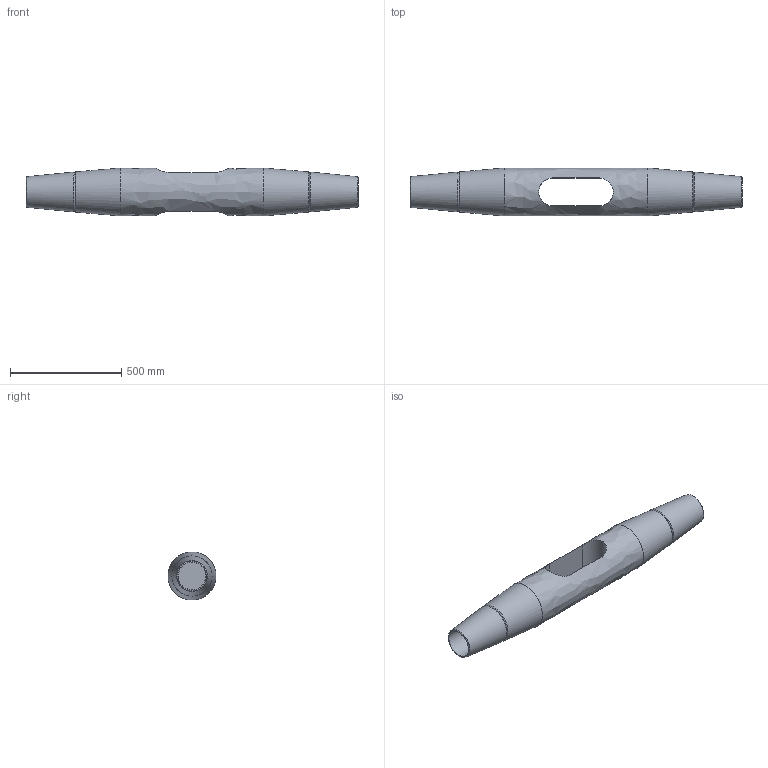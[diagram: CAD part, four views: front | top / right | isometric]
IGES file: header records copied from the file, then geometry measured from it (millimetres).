
Global section: file name: 520-120-KMF; native system: Autodesk Inventor 2016; preprocessor: unknown; author: Administrator; date: 20200702.133031; units: centimetre
Bounding box: 1495 x 216 x 215.98 mm (x, y, z)
Volume: 33261899.3 mm3; surface area: 1139637.2 mm2
Topology: 1 solids, 1 shells, 21 faces, 53 edges, 36 vertices
Faces by surface type: bspline 21
